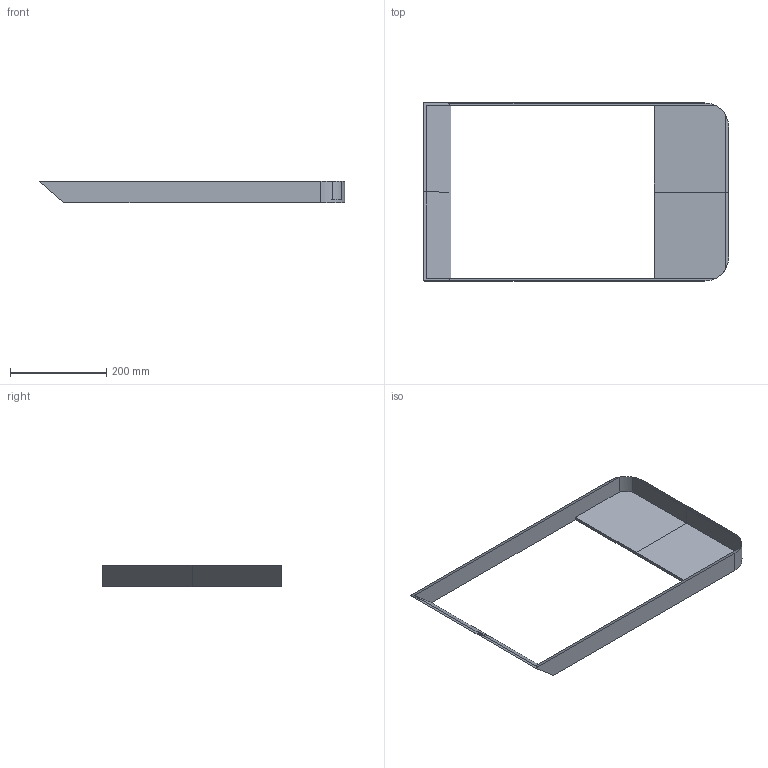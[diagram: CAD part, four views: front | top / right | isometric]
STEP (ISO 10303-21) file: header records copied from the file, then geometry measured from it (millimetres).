
FILE_DESCRIPTION(/* description */ (''),/* implementation_level */ '2;1');
FILE_NAME(/* name */ 'cover_kingpin',/* time_stamp */ '2018-02-20T19:12:57+01:00',/* author */ (''),/* organization */ (''),/* preprocessor_version */ 'ST-DEVELOPER v14',/* originating_system */ '',/* authorisation */ '');
FILE_SCHEMA (('CONFIG_CONTROL_DESIGN'));
Length unit declared in the file: millimetre
Products named in the file (1): Document
Bounding box: 635.07 x 370 x 44 mm (x, y, z)
Surface area: 297116 mm2 (no closed solid volume)
Topology: 0 solids, 1 shells, 24 faces, 68 edges, 40 vertices
Faces by surface type: bspline 12, plane 12
Entity records: 846 total; most frequent: CARTESIAN_POINT 360, ORIENTED_EDGE 112, EDGE_CURVE 68, B_SPLINE_CURVE_WITH_KNOTS 56, VERTEX_POINT 40, ADVANCED_FACE 24, FACE_OUTER_BOUND 24, EDGE_LOOP 24
